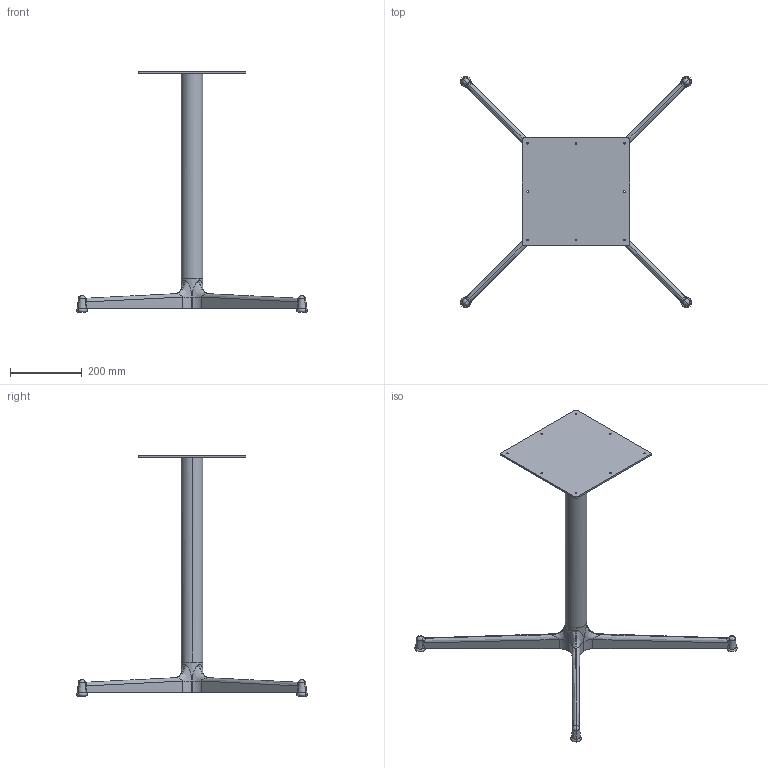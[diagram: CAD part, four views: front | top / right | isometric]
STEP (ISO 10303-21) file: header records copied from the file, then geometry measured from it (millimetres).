
FILE_DESCRIPTION(/* description */ (''),/* implementation_level */ '2;1');
FILE_NAME(/* name */ 'kinoshita_coccole_cl06b',/* time_stamp */ '2025-05-27T18:06:37+09:00',/* author */ (''),/* organization */ (''),/* preprocessor_version */ 'ST-DEVELOPER v16.5',/* originating_system */ '',/* authorisation */ '');
FILE_SCHEMA (('AUTOMOTIVE_DESIGN'));
Length unit declared in the file: millimetre
Products named in the file (1): Document
Bounding box: 645.22 x 645.22 x 670 mm (x, y, z)
Volume: 3351125 mm3; surface area: 494735.9 mm2
Topology: 1 solids, 1 shells, 137 faces, 362 edges, 217 vertices
Faces by surface type: bspline 116, plane 21
Entity records: 7834 total; most frequent: CARTESIAN_POINT 5791, ORIENTED_EDGE 692, EDGE_CURVE 346, VERTEX_POINT 217, B_SPLINE_CURVE_WITH_KNOTS 201, EDGE_LOOP 159, ADVANCED_FACE 137, FACE_OUTER_BOUND 137
